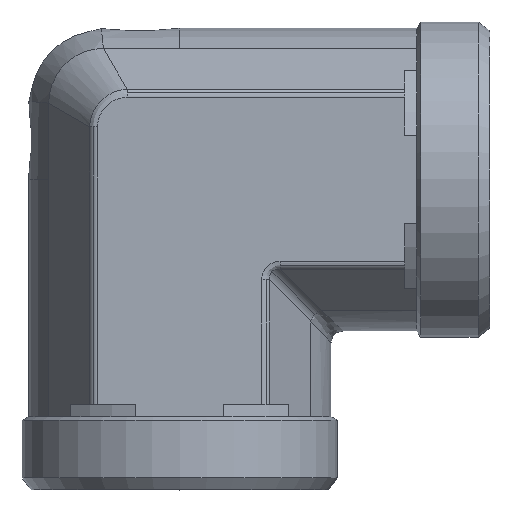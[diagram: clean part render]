
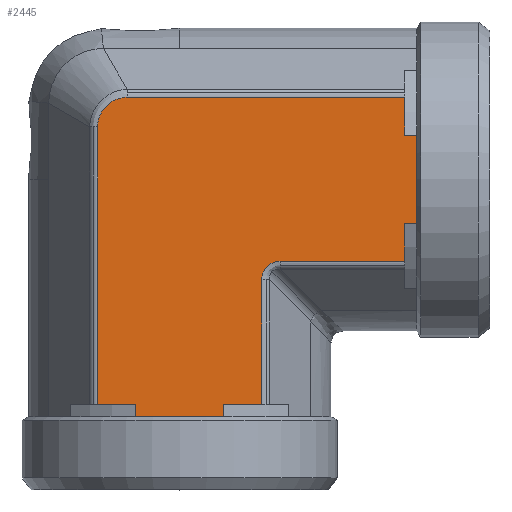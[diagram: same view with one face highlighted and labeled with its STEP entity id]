
A CAD part, top view. The second image highlights one B-rep face of the part: STEP entity #2445.
In plain terms, the highlighted planar face has unit normal (0, 0, 1) as drawn and (0, -1, 0) by its records, which use the part's own axes.
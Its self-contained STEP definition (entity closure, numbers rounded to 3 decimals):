
#361=CARTESIAN_POINT('',(12.027,-24.875,13.496));
#362=VERTEX_POINT('',#361);
#370=CARTESIAN_POINT('',(32.5,-24.875,13.496));
#371=VERTEX_POINT('',#370);
#372=CARTESIAN_POINT('',(12.027,-24.875,13.496));
#373=DIRECTION('',(1.0,0.0,0.0));
#374=VECTOR('',#373,20.473);
#375=LINE('',#372,#374);
#376=EDGE_CURVE('',#362,#371,#375,.T.);
#485=CARTESIAN_POINT('',(-17.996,-24.875,-8.614));
#486=VERTEX_POINT('',#485);
#494=CARTESIAN_POINT('',(-17.996,-24.875,37.));
#495=VERTEX_POINT('',#494);
#496=CARTESIAN_POINT('',(-17.996,-24.875,-8.614));
#497=DIRECTION('',(0.0,0.0,1.0));
#498=VECTOR('',#497,45.614);
#499=LINE('',#496,#498);
#500=EDGE_CURVE('',#486,#495,#499,.T.);
#692=CARTESIAN_POINT('',(34.5,-24.875,0.));
#693=VERTEX_POINT('',#692);
#1891=CARTESIAN_POINT('',(8.996,-24.875,37.));
#1892=VERTEX_POINT('',#1891);
#1893=CARTESIAN_POINT('',(2.75,-24.875,37.0));
#1894=VERTEX_POINT('',#1893);
#1895=CARTESIAN_POINT('',(8.996,-24.875,37.));
#1896=DIRECTION('',(-1.0,0.0,0.0));
#1897=VECTOR('',#1896,6.246);
#1898=LINE('',#1895,#1897);
#1899=EDGE_CURVE('',#1892,#1894,#1898,.T.);
#1950=CARTESIAN_POINT('',(-11.75,-24.875,37.0));
#1951=VERTEX_POINT('',#1950);
#1952=CARTESIAN_POINT('',(-11.75,-24.875,37.0));
#1953=DIRECTION('',(-1.0,0.0,0.0));
#1954=VECTOR('',#1953,6.246);
#1955=LINE('',#1952,#1954);
#1956=EDGE_CURVE('',#1951,#495,#1955,.T.);
#2014=CARTESIAN_POINT('',(-11.75,-24.875,39.0));
#2015=VERTEX_POINT('',#2014);
#2016=CARTESIAN_POINT('',(-11.75,-24.875,39.0));
#2017=DIRECTION('',(0.0,0.0,-1.0));
#2018=VECTOR('',#2017,2.0);
#2019=LINE('',#2016,#2018);
#2020=EDGE_CURVE('',#2015,#1951,#2019,.T.);
#2037=CARTESIAN_POINT('',(2.75,-24.875,39.0));
#2038=VERTEX_POINT('',#2037);
#2039=CARTESIAN_POINT('',(2.75,-24.875,37.0));
#2040=DIRECTION('',(0.0,0.0,1.0));
#2041=VECTOR('',#2040,2.0);
#2042=LINE('',#2039,#2041);
#2043=EDGE_CURVE('',#1894,#2038,#2042,.T.);
#2319=CARTESIAN_POINT('',(-4.5,-24.875,39.0));
#2320=VERTEX_POINT('',#2319);
#2321=CARTESIAN_POINT('',(-4.5,-24.875,39.0));
#2322=DIRECTION('',(-1.0,0.0,0.0));
#2323=VECTOR('',#2322,7.25);
#2324=LINE('',#2321,#2323);
#2325=EDGE_CURVE('',#2320,#2015,#2324,.T.);
#2343=CARTESIAN_POINT('',(-4.5,-24.875,-3.175));
#2344=DIRECTION('',(0.0,-1.0,0.0));
#2345=DIRECTION('',(0.0,0.0,-1.0));
#2346=AXIS2_PLACEMENT_3D('',#2343,#2344,#2345);
#2347=PLANE('',#2346);
#2348=ORIENTED_EDGE('',*,*,#2020,.T.);
#2349=ORIENTED_EDGE('',*,*,#1956,.T.);
#2350=ORIENTED_EDGE('',*,*,#500,.F.);
#2351=CARTESIAN_POINT('',(-13.114,-24.875,-13.496));
#2352=VERTEX_POINT('',#2351);
#2353=CARTESIAN_POINT('',(-17.996,-24.875,-8.614));
#2354=CARTESIAN_POINT('',(-17.996,-24.875,-8.931));
#2355=CARTESIAN_POINT('',(-17.964,-24.875,-9.252));
#2356=CARTESIAN_POINT('',(-17.798,-24.875,-10.069));
#2357=CARTESIAN_POINT('',(-17.618,-24.875,-10.55));
#2358=CARTESIAN_POINT('',(-16.964,-24.875,-11.711));
#2359=CARTESIAN_POINT('',(-16.383,-24.875,-12.319));
#2360=CARTESIAN_POINT('',(-14.915,-24.875,-13.236));
#2361=CARTESIAN_POINT('',(-14.016,-24.875,-13.496));
#2362=CARTESIAN_POINT('',(-13.114,-24.875,-13.496));
#2363=B_SPLINE_CURVE_WITH_KNOTS('',3,(#2353,#2354,#2355,#2356,#2357,#2358,#2359,#2360,#2361,#2362),.UNSPECIFIED.,.F.,.U.,(4,2,2,2,4),(-7.622,-6.669,-5.145,-2.706,0.0),.UNSPECIFIED.);
#2364=EDGE_CURVE('',#2352,#486,#2363,.F.);
#2365=ORIENTED_EDGE('',*,*,#2364,.F.);
#2366=CARTESIAN_POINT('',(32.5,-24.875,-13.496));
#2367=VERTEX_POINT('',#2366);
#2368=CARTESIAN_POINT('',(32.5,-24.875,-13.496));
#2369=DIRECTION('',(-1.0,0.0,0.0));
#2370=VECTOR('',#2369,45.614);
#2371=LINE('',#2368,#2370);
#2372=EDGE_CURVE('',#2367,#2352,#2371,.T.);
#2373=ORIENTED_EDGE('',*,*,#2372,.F.);
#2374=CARTESIAN_POINT('',(32.5,-24.875,-7.25));
#2375=VERTEX_POINT('',#2374);
#2376=CARTESIAN_POINT('',(32.5,-24.875,-13.496));
#2377=DIRECTION('',(0.0,0.0,1.0));
#2378=VECTOR('',#2377,6.246);
#2379=LINE('',#2376,#2378);
#2380=EDGE_CURVE('',#2367,#2375,#2379,.T.);
#2381=ORIENTED_EDGE('',*,*,#2380,.T.);
#2382=CARTESIAN_POINT('',(34.5,-24.875,-7.25));
#2383=VERTEX_POINT('',#2382);
#2384=CARTESIAN_POINT('',(32.5,-24.875,-7.25));
#2385=DIRECTION('',(1.0,0.0,0.0));
#2386=VECTOR('',#2385,2.);
#2387=LINE('',#2384,#2386);
#2388=EDGE_CURVE('',#2375,#2383,#2387,.T.);
#2389=ORIENTED_EDGE('',*,*,#2388,.T.);
#2390=CARTESIAN_POINT('',(34.5,-24.875,-7.25));
#2391=DIRECTION('',(0.0,0.0,1.0));
#2392=VECTOR('',#2391,7.25);
#2393=LINE('',#2390,#2392);
#2394=EDGE_CURVE('',#2383,#693,#2393,.T.);
#2395=ORIENTED_EDGE('',*,*,#2394,.T.);
#2396=CARTESIAN_POINT('',(34.5,-24.875,7.25));
#2397=VERTEX_POINT('',#2396);
#2398=CARTESIAN_POINT('',(34.5,-24.875,0.));
#2399=DIRECTION('',(0.0,0.0,1.0));
#2400=VECTOR('',#2399,7.25);
#2401=LINE('',#2398,#2400);
#2402=EDGE_CURVE('',#693,#2397,#2401,.T.);
#2403=ORIENTED_EDGE('',*,*,#2402,.T.);
#2404=CARTESIAN_POINT('',(32.5,-24.875,7.25));
#2405=VERTEX_POINT('',#2404);
#2406=CARTESIAN_POINT('',(34.5,-24.875,7.25));
#2407=DIRECTION('',(-1.0,0.0,0.0));
#2408=VECTOR('',#2407,2.);
#2409=LINE('',#2406,#2408);
#2410=EDGE_CURVE('',#2397,#2405,#2409,.T.);
#2411=ORIENTED_EDGE('',*,*,#2410,.T.);
#2412=CARTESIAN_POINT('',(32.5,-24.875,7.25));
#2413=DIRECTION('',(0.0,0.0,1.0));
#2414=VECTOR('',#2413,6.246);
#2415=LINE('',#2412,#2414);
#2416=EDGE_CURVE('',#2405,#371,#2415,.T.);
#2417=ORIENTED_EDGE('',*,*,#2416,.T.);
#2418=ORIENTED_EDGE('',*,*,#376,.F.);
#2419=CARTESIAN_POINT('',(8.996,-24.875,16.527));
#2420=VERTEX_POINT('',#2419);
#2421=CARTESIAN_POINT('',(13.037,-24.875,17.537));
#2422=DIRECTION('',(0.,-1.,0.));
#2423=DIRECTION('',(-0.707,0.,-0.707));
#2424=AXIS2_PLACEMENT_3D('',#2421,#2422,#2423);
#2425=ELLIPSE('',#2424,4.518,3.5);
#2426=EDGE_CURVE('',#2420,#362,#2425,.T.);
#2427=ORIENTED_EDGE('',*,*,#2426,.F.);
#2428=CARTESIAN_POINT('',(8.996,-24.875,37.));
#2429=DIRECTION('',(0.0,0.0,-1.0));
#2430=VECTOR('',#2429,20.473);
#2431=LINE('',#2428,#2430);
#2432=EDGE_CURVE('',#1892,#2420,#2431,.T.);
#2433=ORIENTED_EDGE('',*,*,#2432,.F.);
#2434=ORIENTED_EDGE('',*,*,#1899,.T.);
#2435=ORIENTED_EDGE('',*,*,#2043,.T.);
#2436=CARTESIAN_POINT('',(2.75,-24.875,39.0));
#2437=DIRECTION('',(-1.0,0.0,0.0));
#2438=VECTOR('',#2437,7.25);
#2439=LINE('',#2436,#2438);
#2440=EDGE_CURVE('',#2038,#2320,#2439,.T.);
#2441=ORIENTED_EDGE('',*,*,#2440,.T.);
#2442=ORIENTED_EDGE('',*,*,#2325,.T.);
#2443=EDGE_LOOP('',(#2348,#2349,#2350,#2365,#2373,#2381,#2389,#2395,#2403,#2411,#2417,#2418,#2427,#2433,#2434,#2435,#2441,#2442));
#2444=FACE_OUTER_BOUND('',#2443,.T.);
#2445=ADVANCED_FACE('',(#2444),#2347,.T.);
